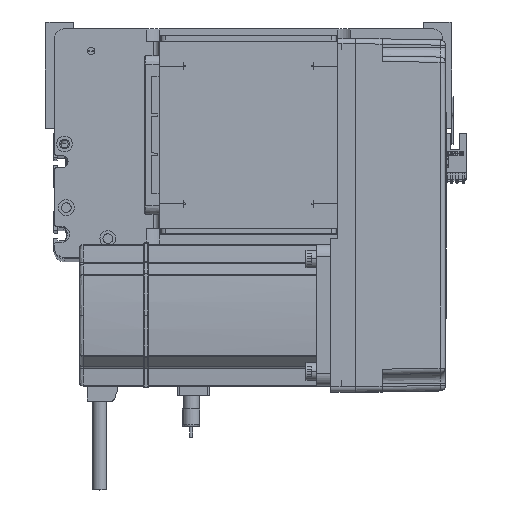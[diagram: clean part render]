
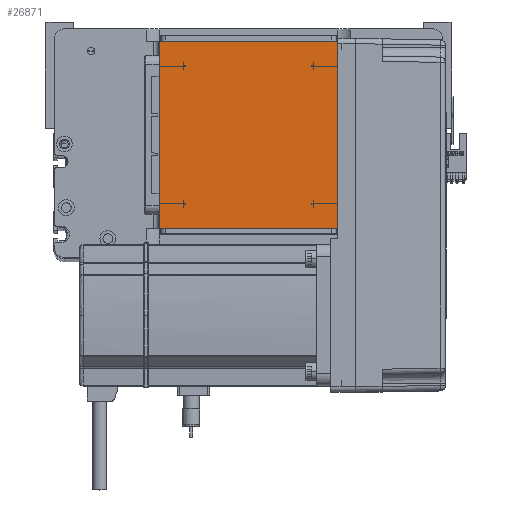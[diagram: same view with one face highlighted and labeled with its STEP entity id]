
A CAD part, top view. The second image highlights one B-rep face of the part: STEP entity #26871.
In plain terms, the highlighted planar face has unit normal (0, 0, 1).
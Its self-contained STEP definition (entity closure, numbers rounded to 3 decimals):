
#5622 = PLANE ( 'NONE',  #8057 ) ;
#5793 = DIRECTION ( 'NONE',  ( 1., 0., 0. ) ) ;
#6176 = LINE ( 'NONE', #45308, #42794 ) ;
#6790 = EDGE_CURVE ( 'NONE', #28015, #47196, #7703, .T. ) ;
#7703 = LINE ( 'NONE', #7953, #40668 ) ;
#7953 = CARTESIAN_POINT ( 'NONE',  ( -50.5, 122., 115. ) ) ;
#8057 = AXIS2_PLACEMENT_3D ( 'NONE', #41764, #45392, #5793 ) ;
#10740 = VERTEX_POINT ( 'NONE', #41544 ) ;
#16687 = ORIENTED_EDGE ( 'NONE', *, *, #39332, .T. ) ;
#20703 = ORIENTED_EDGE ( 'NONE', *, *, #6790, .T. ) ;
#22343 = CARTESIAN_POINT ( 'NONE',  ( 50.5, 122., 115. ) ) ;
#22498 = LINE ( 'NONE', #22343, #29934 ) ;
#22506 = DIRECTION ( 'NONE',  ( 0., 1., 0. ) ) ;
#24123 = CARTESIAN_POINT ( 'NONE',  ( -50.5, 122., 115. ) ) ;
#26871 = ADVANCED_FACE ( 'NONE', ( #30872 ), #5622, .T. ) ;
#26976 = VECTOR ( 'NONE', #33231, 1000. ) ;
#28015 = VERTEX_POINT ( 'NONE', #24123 ) ;
#29079 = CARTESIAN_POINT ( 'NONE',  ( -50.5, 16., 115. ) ) ;
#29934 = VECTOR ( 'NONE', #22506, 1000. ) ;
#30689 = LINE ( 'NONE', #29079, #26976 ) ;
#30872 = FACE_OUTER_BOUND ( 'NONE', #38596, .T. ) ;
#32260 = DIRECTION ( 'NONE',  ( 0., -1., 0. ) ) ;
#33231 = DIRECTION ( 'NONE',  ( 1., 0., 0. ) ) ;
#37996 = CARTESIAN_POINT ( 'NONE',  ( -50.5, 16., 115. ) ) ;
#38518 = VERTEX_POINT ( 'NONE', #50688 ) ;
#38596 = EDGE_LOOP ( 'NONE', ( #20703, #50602, #16687, #43211 ) ) ;
#39332 = EDGE_CURVE ( 'NONE', #10740, #38518, #22498, .T. ) ;
#40668 = VECTOR ( 'NONE', #32260, 1000. ) ;
#41544 = CARTESIAN_POINT ( 'NONE',  ( 50.5, 16., 115. ) ) ;
#41764 = CARTESIAN_POINT ( 'NONE',  ( 0., 0., 115. ) ) ;
#42794 = VECTOR ( 'NONE', #45813, 1000. ) ;
#43211 = ORIENTED_EDGE ( 'NONE', *, *, #49843, .T. ) ;
#45308 = CARTESIAN_POINT ( 'NONE',  ( -50.5, 122., 115. ) ) ;
#45392 = DIRECTION ( 'NONE',  ( 0., 0., 1. ) ) ;
#45813 = DIRECTION ( 'NONE',  ( -1., 0., 0. ) ) ;
#47196 = VERTEX_POINT ( 'NONE', #37996 ) ;
#47486 = EDGE_CURVE ( 'NONE', #47196, #10740, #30689, .T. ) ;
#49843 = EDGE_CURVE ( 'NONE', #38518, #28015, #6176, .T. ) ;
#50602 = ORIENTED_EDGE ( 'NONE', *, *, #47486, .T. ) ;
#50688 = CARTESIAN_POINT ( 'NONE',  ( 50.5, 122., 115. ) ) ;
